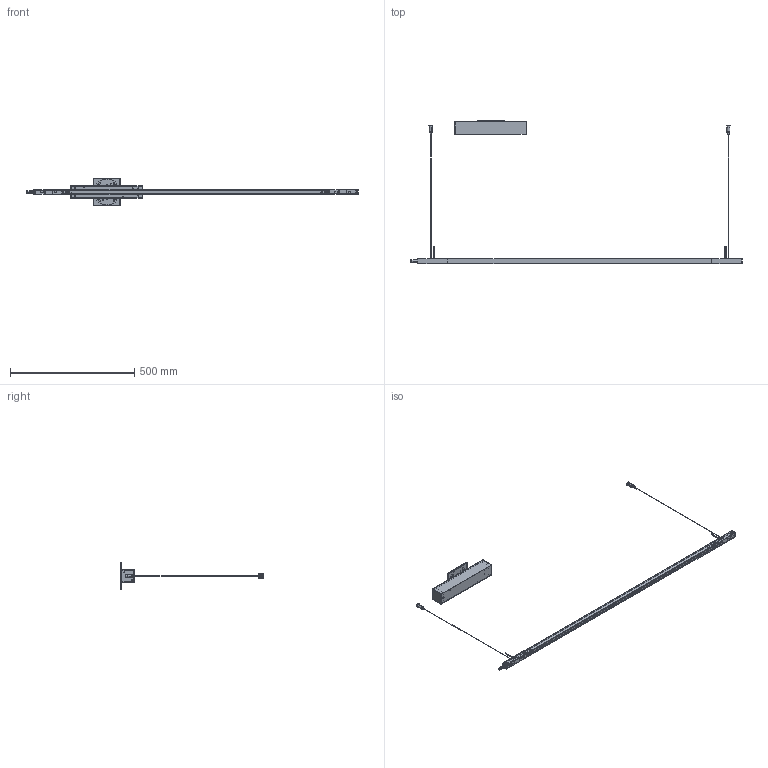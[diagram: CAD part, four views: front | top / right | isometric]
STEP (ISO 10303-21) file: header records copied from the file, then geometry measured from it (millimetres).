
FILE_DESCRIPTION (( 'STEP AP203' ), '1' );
FILE_NAME ('LINESCAPES PEND H L130.STEP', '2017-07-28T13:48:19', ( 'user' ), ( '' ), 'SwSTEP 2.0', 'SolidWorks 2016', '' );
FILE_SCHEMA (( 'CONFIG_CONTROL_DESIGN' ));
Length unit declared in the file: millimetre
Products named in the file (31): Assieme barra led 1060; CONNETTORE OTTONE 2 VITI; 010SPI700100a; 052LIN700100_no alim; 052LIN700300; 010SPI700100b; 049LIN000_HORIZONTAL END - 049LIN700300; grano_M5x4_B18.3.6M - M5 x 0.8 x 5 Hex Socket Flat Pt. SS --N; 010SPI700300; 010LIN700700_estruso rosone; 010COM000004; 049LIN000_HORIZONTAL START - 049LINB700100; 052LIN700200; 010LIN700800_tappo rosone dx; 019COM000271; profili - spigolo_sospesa; CONNETTORE OTTONE 2 VITI_senza viti; 010LIN701700_tappo rosone sx; 010MYR007600_Square cover plate; schermo tru sospesa; 019COM000081; ROSONE SPIGOLO usa; 010LIN001200_staffa muro; 524LCY000001_Crossbar; 052SPI700400; Parte1^049LIN000; 052LIN700100; LINESCAPES PEND H L130; 093COM000063- STRISCIA LED LINESCAPES PARETE PARALLELA 1M_1000; 052LIN700400; 052SPI700600_2
Assembly tree (60 placements, depth 3):
  LINESCAPES PEND H L130
    ROSONE SPIGOLO usa
      010LIN001200_staffa muro
      010LIN700700_estruso rosone
      010LIN700800_tappo rosone dx
      010LIN701700_tappo rosone sx
    049LIN000_HORIZONTAL START - 049LINB700100
      052LIN700100
      052SPI700600_2  x2
      010SPI700100a  x3
      010SPI700100b  x3
      010SPI700300  x4
      052LIN700200
      CONNETTORE OTTONE 2 VITI_senza viti  x2
      019COM000081
      Parte1^049LIN000
      052LIN700400
      CONNETTORE OTTONE 2 VITI  x2
      052LIN700300  x2
      grano_M5x4_B18.3.6M - M5 x 0.8 x 5 Hex Socket Flat Pt. SS --N
    Assieme barra led 1060
      profili - spigolo_sospesa
      schermo tru sospesa
      052SPI700400  x2
      093COM000063- STRISCIA LED LINESCAPES PARETE PARALLELA 1M_1000
    049LIN000_HORIZONTAL END - 049LIN700300
      052LIN700100_no alim
      052SPI700600_2
      010SPI700100a  x2
      010SPI700100b  x2
      010SPI700300  x2
      052LIN700200
      CONNETTORE OTTONE 2 VITI_senza viti  x2
      019COM000081
      Parte1^049LIN000
      052LIN700400
      052LIN700300  x2
      grano_M5x4_B18.3.6M - M5 x 0.8 x 5 Hex Socket Flat Pt. SS --N
    010COM000004  x2
    019COM000271  x2
    010MYR007600_Square cover plate
    524LCY000001_Crossbar
Bounding box: 1335.1 x 576 x 109 mm (x, y, z)
Volume: 397694.2 mm3; surface area: 473484.1 mm2
Topology: 109 solids, 109 shells, 7968 faces, 20140 edges, 12633 vertices
Faces by surface type: plane 5087, cylinder 1634, bspline 744, cone 183, sphere 182, torus 138
Entity records: 189687 total; most frequent: CARTESIAN_POINT 62109, ORIENTED_EDGE 26862, DIRECTION 23024, EDGE_CURVE 13431, VECTOR 10224, LINE 10224, VERTEX_POINT 8667, AXIS2_PLACEMENT_3D 6400
